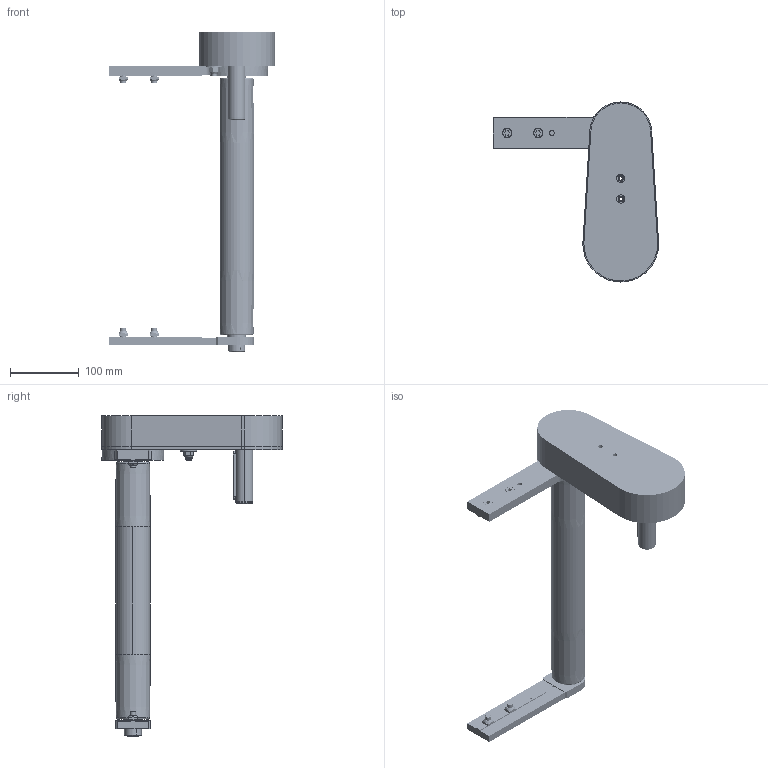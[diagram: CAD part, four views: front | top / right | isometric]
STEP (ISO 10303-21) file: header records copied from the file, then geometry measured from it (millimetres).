
FILE_DESCRIPTION (( 'STEP AP203' ), '1' );
FILE_NAME ('084.050.KTC.49.350.STEP', '2019-07-29T13:26:19', ( '' ), ( '' ), 'SwSTEP 2.0', 'SolidWorks 2018', '' );
FILE_SCHEMA (( 'CONFIG_CONTROL_DESIGN' ));
Length unit declared in the file: millimetre
Products named in the file (24): 084.809.003; 084.813.001; 084.803.014; 084.810.004; 084.302.000 DADI ALUSIC 13x13_084.302.004; Circlip DIN 471 - 8 x 0.8_Circlip DIN 471 - 8 x 0.8; 084.802.034_084.802.034; 084.810.001; 084.811.004; 084.301.000 VITI ALUSIC_084.301.003; 084.803.012; 084.815.128_Default<A macchina>; 084.802.017_084.802.017; 084.810.010; 084.807.002_084.807.002; CHIAVETTE_A 8x7x70 UNI 6604-69; 084.810.005; 084.807.001_084.807.001; 084.809.002; 084.813.005; RONDELLE FASCIA LARGA UNI 6593_8.4x24 UNI 6593; CUSCINETTI A SFERE_608-2RS; 084.050.KTC.49.350; DADI ESAGONALI AUTOBLOCCANTI UNI 7473 INOX_M8 UNI 7473 INOX
Assembly tree (32 placements, depth 3):
  084.050.KTC.49.350
    084.815.128_Default<A macchina>
    084.811.004
    084.813.001
    084.810.001  x2
    084.802.034_084.802.034
    084.802.017_084.802.017
    084.807.001_084.807.001
    084.807.002_084.807.002
    084.803.014  x2
    084.803.012
    084.809.002
    084.809.003
    084.810.005
      084.810.010
      084.810.004
      CUSCINETTI A SFERE_608-2RS  x2
      Circlip DIN 471 - 8 x 0.8_Circlip DIN 471 - 8 x 0.8
      RONDELLE FASCIA LARGA UNI 6593_8.4x24 UNI 6593
      DADI ESAGONALI AUTOBLOCCANTI UNI 7473 INOX_M8 UNI 7473 INOX
    084.301.000 VITI ALUSIC_084.301.003  x4
    084.302.000 DADI ALUSIC 13x13_084.302.004  x4
    CHIAVETTE_A 8x7x70 UNI 6604-69
    084.813.005
Bounding box: 240 x 261.5 x 466 mm (x, y, z)
Volume: 917240.3 mm3; surface area: 531273.2 mm2
Topology: 61 solids, 62 shells, 2854 faces, 6735 edges, 4305 vertices
Faces by surface type: cylinder 1399, plane 720, bspline 468, cone 172, torus 86, sphere 9
Entity records: 81297 total; most frequent: CARTESIAN_POINT 18493, DIRECTION 13655, ORIENTED_EDGE 11868, EDGE_CURVE 5934, AXIS2_PLACEMENT_3D 5764, VERTEX_POINT 3782, CIRCLE 3644, EDGE_LOOP 3104
